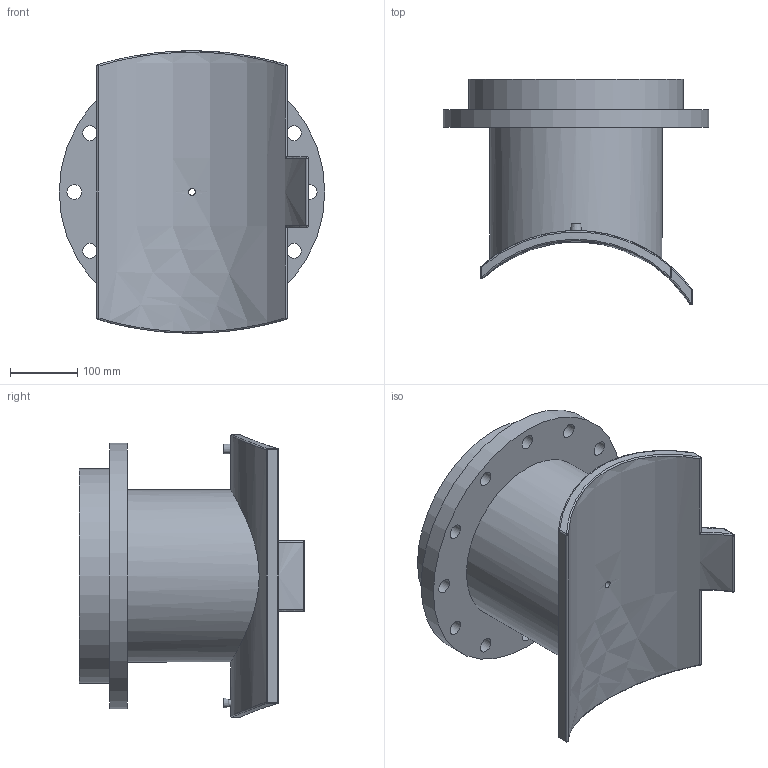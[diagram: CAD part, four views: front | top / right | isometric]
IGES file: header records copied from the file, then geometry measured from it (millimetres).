
Global section: file name: 495804710125T.ipt; native system: Autodesk Inventor 2015; preprocessor: unknown; author: KIM; date: 20171106.094402; units: millimetre
Bounding box: 395 x 334.87 x 420 mm (x, y, z)
Volume: 5603015.4 mm3; surface area: 864910.8 mm2
Topology: 2 solids, 2 shells, 79 faces, 168 edges, 103 vertices
Faces by surface type: cylinder 24, revolution 21, plane 16, sphere 12, bspline 4, cone 2
Full cylindrical faces by diameter (mm): 4 x2, 16 x1, 256 x1, 320 x1, 395 x1
